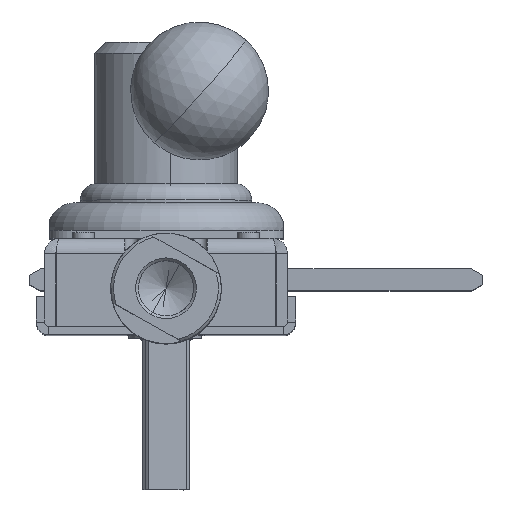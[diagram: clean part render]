
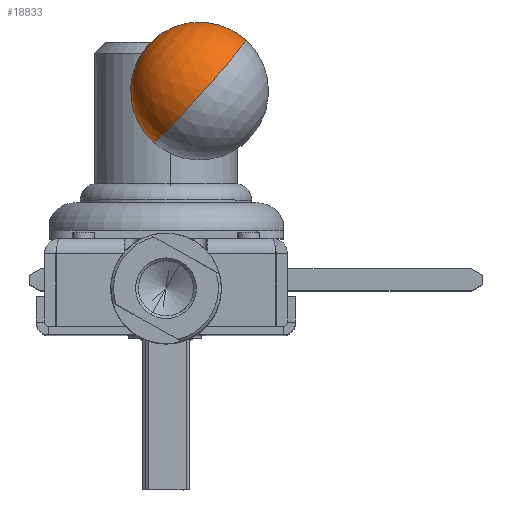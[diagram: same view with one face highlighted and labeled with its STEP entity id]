
A CAD part, top view. The second image highlights one B-rep face of the part: STEP entity #18833.
In plain terms, the highlighted spherical face has radius 12.5 mm.
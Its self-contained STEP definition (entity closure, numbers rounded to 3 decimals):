
#306 = CARTESIAN_POINT ( 'NONE',  ( 0., 0., 0. ) ) ;
#561 = DIRECTION ( 'NONE',  ( 0., 1., 0. ) ) ;
#1490 = CARTESIAN_POINT ( 'NONE',  ( -7.5, -10., 0. ) ) ;
#2961 = DIRECTION ( 'NONE',  ( -1., 0., 0. ) ) ;
#8383 = ORIENTED_EDGE ( 'NONE', *, *, #13639, .T. ) ;
#9282 = EDGE_CURVE ( 'NONE', #24097, #17695, #13661, .T. ) ;
#9434 = DIRECTION ( 'NONE',  ( 1., 0., 0. ) ) ;
#11730 = ORIENTED_EDGE ( 'NONE', *, *, #11835, .F. ) ;
#11793 = CARTESIAN_POINT ( 'NONE',  ( 7.5, -10., 0. ) ) ;
#11835 = EDGE_CURVE ( 'NONE', #13107, #17695, #29759, .T. ) ;
#13107 = VERTEX_POINT ( 'NONE', #1490 ) ;
#13417 = AXIS2_PLACEMENT_3D ( 'NONE', #14530, #17132, #9434 ) ;
#13639 = EDGE_CURVE ( 'NONE', #13107, #24097, #23075, .T. ) ;
#13661 = CIRCLE ( 'NONE', #22068, 12.5 ) ;
#14448 = CARTESIAN_POINT ( 'NONE',  ( 0., 0., 0. ) ) ;
#14530 = CARTESIAN_POINT ( 'NONE',  ( 0., 0., 0. ) ) ;
#15879 = SPHERICAL_SURFACE ( 'NONE', #13417, 12.5 ) ;
#15959 = CARTESIAN_POINT ( 'NONE',  ( 0., 12.5, 0. ) ) ;
#16054 = CARTESIAN_POINT ( 'NONE',  ( 0., -10., 0. ) ) ;
#17051 = DIRECTION ( 'NONE',  ( 1., 0., 0. ) ) ;
#17132 = DIRECTION ( 'NONE',  ( 0., 0., -1. ) ) ;
#17695 = VERTEX_POINT ( 'NONE', #15959 ) ;
#18433 = DIRECTION ( 'NONE',  ( 0., 0., -1. ) ) ;
#18686 = DIRECTION ( 'NONE',  ( -1., 0., 0. ) ) ;
#18703 = EDGE_LOOP ( 'NONE', ( #11730, #8383, #28363 ) ) ;
#18833 = ADVANCED_FACE ( 'NONE', ( #21966 ), #15879, .T. ) ;
#20385 = AXIS2_PLACEMENT_3D ( 'NONE', #306, #18433, #2961 ) ;
#21966 = FACE_OUTER_BOUND ( 'NONE', #18703, .T. ) ;
#22068 = AXIS2_PLACEMENT_3D ( 'NONE', #14448, #32616, #17051 ) ;
#23075 = CIRCLE ( 'NONE', #26117, 7.5 ) ;
#24097 = VERTEX_POINT ( 'NONE', #11793 ) ;
#26117 = AXIS2_PLACEMENT_3D ( 'NONE', #16054, #561, #18686 ) ;
#28363 = ORIENTED_EDGE ( 'NONE', *, *, #9282, .T. ) ;
#29759 = CIRCLE ( 'NONE', #20385, 12.5 ) ;
#32616 = DIRECTION ( 'NONE',  ( 0., 0., 1. ) ) ;
